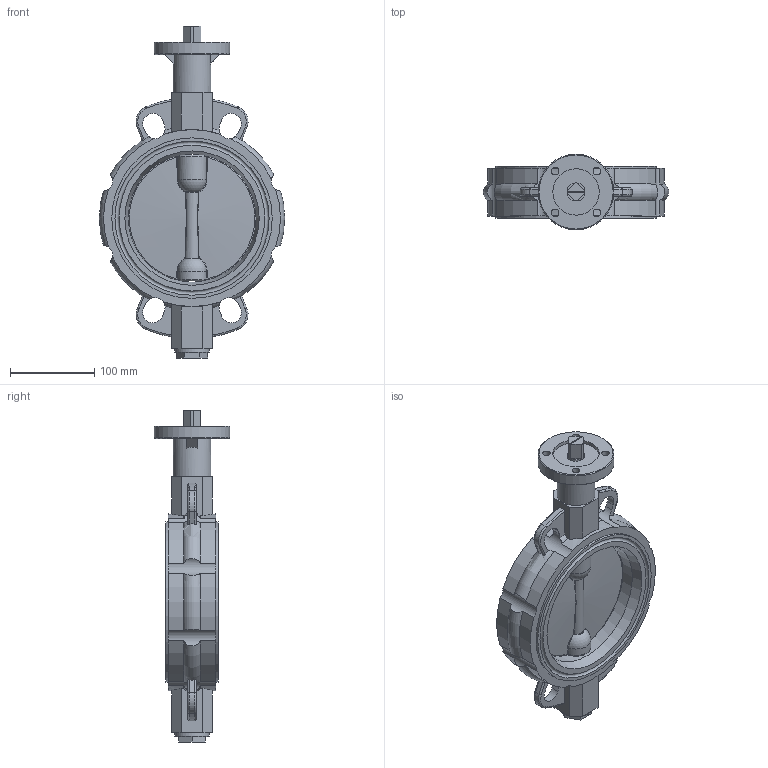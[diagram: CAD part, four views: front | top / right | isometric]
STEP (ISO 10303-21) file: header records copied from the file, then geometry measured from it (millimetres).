
FILE_DESCRIPTION( ( 'STEP AP214' ), '1' );
FILE_NAME( ' ', ' ', ( ' ' ), ( ' ' ), 'PSStep 13.0', 'VISI 18.0', ' ' );
FILE_SCHEMA( ( 'AUTOMOTIVE_DESIGN { 1 0 10303 214 1 1 1 1 }' ) );
Length unit declared in the file: millimetre
Products named in the file (1): 1
Bounding box: 219.94 x 90 x 394 mm (x, y, z)
Volume: 1586010.5 mm3; surface area: 194760.2 mm2
Topology: 1 solids, 1 shells, 215 faces, 614 edges, 402 vertices
Faces by surface type: plane 76, cylinder 62, torus 43, bspline 18, sphere 8, cone 8
Full cylindrical faces by diameter (mm): 9 x4, 21.3 x1, 41.2 x1, 45 x1, 55 x1, 90 x1, 152.2 x1, 190.4 x2
Entity records: 12298 total; most frequent: CARTESIAN_POINT 5189, ORIENTED_EDGE 1158, DIRECTION 1094, EDGE_CURVE 579, AXIS2_PLACEMENT_3D 447, VERTEX_POINT 387, EDGE_LOOP 256, CIRCLE 239
